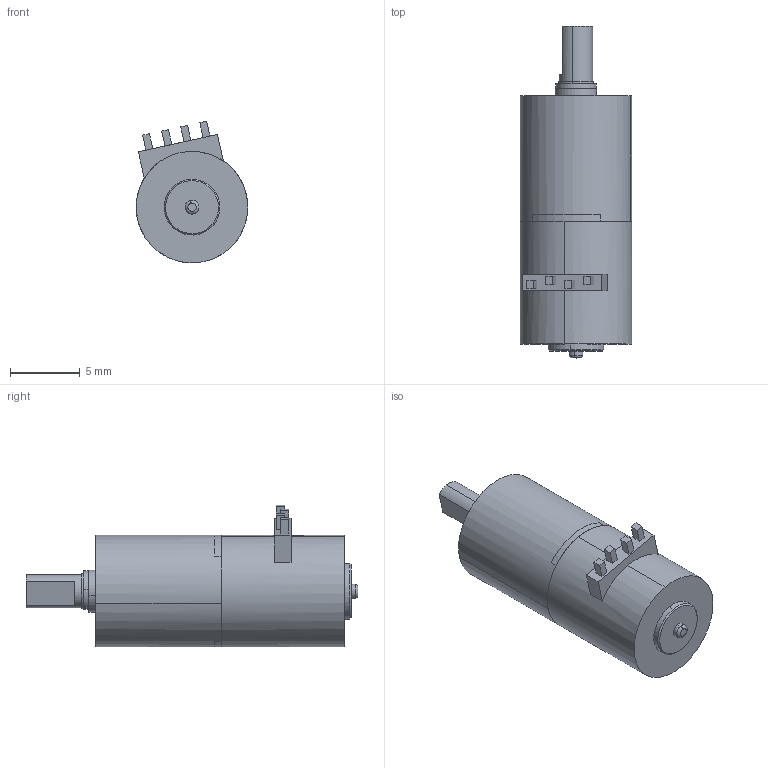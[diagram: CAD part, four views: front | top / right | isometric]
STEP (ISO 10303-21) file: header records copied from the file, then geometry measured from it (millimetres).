
FILE_DESCRIPTION (( 'STEP AP203' ), '1' );
FILE_NAME ('ƒÓ8_MUI308-20141216.STEP', '2014-12-16T08:55:36', ( '' ), ( '' ), 'SwSTEP 2.0', 'SolidWorks 2013', '' );
FILE_SCHEMA (( 'CONFIG_CONTROL_DESIGN' ));
Length unit declared in the file: millimetre
Products named in the file (1): 冇8_MUI308-20141216
Bounding box: 8 x 23.8 x 10.17 mm (x, y, z)
Volume: 913.4 mm3; surface area: 1046.2 mm2
Topology: 3 solids, 3 shells, 122 faces, 297 edges, 195 vertices
Faces by surface type: plane 64, cylinder 52, cone 4, torus 2
Entity records: 3713 total; most frequent: DIRECTION 680, CARTESIAN_POINT 618, ORIENTED_EDGE 594, EDGE_CURVE 297, AXIS2_PLACEMENT_3D 261, VERTEX_POINT 195, LINE 158, VECTOR 158
